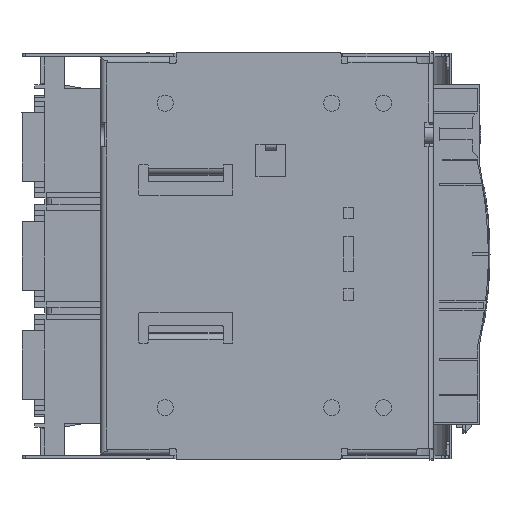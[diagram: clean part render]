
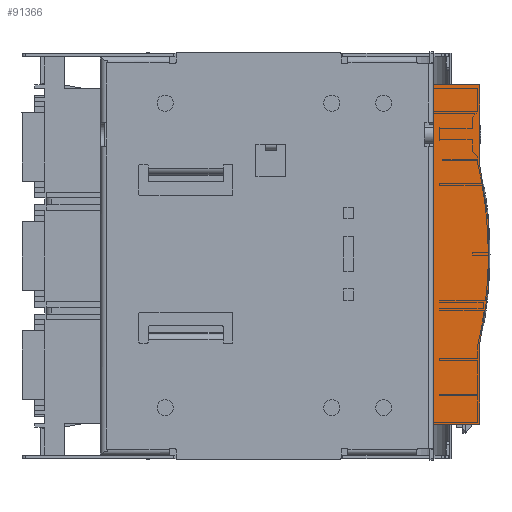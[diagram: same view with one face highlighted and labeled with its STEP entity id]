
A CAD part, front view. The second image highlights one B-rep face of the part: STEP entity #91366.
In plain terms, the highlighted planar face has unit normal (0, -1, 0).
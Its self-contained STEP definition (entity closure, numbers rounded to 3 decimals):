
#5379 = ORIENTED_EDGE ( 'NONE', *, *, #108011, .F. ) ;
#6814 = ORIENTED_EDGE ( 'NONE', *, *, #9411, .F. ) ;
#9411 = EDGE_CURVE ( 'NONE', #169410, #97390, #197263, .T. ) ;
#16148 = VECTOR ( 'NONE', #48841, 1000. ) ;
#19619 = ORIENTED_EDGE ( 'NONE', *, *, #206454, .F. ) ;
#20533 = VERTEX_POINT ( 'NONE', #125835 ) ;
#27535 = EDGE_CURVE ( 'NONE', #55661, #190176, #224031, .T. ) ;
#31430 = CARTESIAN_POINT ( 'NONE',  ( 254.706, 188.813, 2.188 ) ) ;
#32949 = AXIS2_PLACEMENT_3D ( 'NONE', #31430, #70175, #105970 ) ;
#34794 = CARTESIAN_POINT ( 'NONE',  ( 590.656, 188.813, 149.688 ) ) ;
#47041 = VECTOR ( 'NONE', #76552, 1000. ) ;
#48841 = DIRECTION ( 'NONE',  ( 0., 0., 1. ) ) ;
#50523 = CARTESIAN_POINT ( 'NONE',  ( 590.656, 188.813, -145.312 ) ) ;
#50904 = EDGE_LOOP ( 'NONE', ( #5379, #111338, #93314, #6814, #88778, #19619 ) ) ;
#55661 = VERTEX_POINT ( 'NONE', #187999 ) ;
#57156 = CARTESIAN_POINT ( 'NONE',  ( 590.656, 188.813, 149.688 ) ) ;
#66743 = LINE ( 'NONE', #180045, #104513 ) ;
#68475 = EDGE_CURVE ( 'NONE', #172158, #169410, #66743, .T. ) ;
#70175 = DIRECTION ( 'NONE',  ( 0., 1., 0. ) ) ;
#76552 = DIRECTION ( 'NONE',  ( 1., 0., 0. ) ) ;
#88778 = ORIENTED_EDGE ( 'NONE', *, *, #68475, .F. ) ;
#91366 = ADVANCED_FACE ( 'NONE', ( #165398 ), #107142, .F. ) ;
#91781 = VECTOR ( 'NONE', #208940, 1000. ) ;
#93314 = ORIENTED_EDGE ( 'NONE', *, *, #191026, .F. ) ;
#97390 = VERTEX_POINT ( 'NONE', #236897 ) ;
#97882 = CARTESIAN_POINT ( 'NONE',  ( 590.656, 188.813, 149.688 ) ) ;
#104513 = VECTOR ( 'NONE', #125044, 1000. ) ;
#105970 = DIRECTION ( 'NONE',  ( 1., 0., 0. ) ) ;
#107142 = PLANE ( 'NONE',  #228391 ) ;
#107307 = VECTOR ( 'NONE', #225536, 1000. ) ;
#108011 = EDGE_CURVE ( 'NONE', #190176, #20533, #193459, .T. ) ;
#111338 = ORIENTED_EDGE ( 'NONE', *, *, #27535, .F. ) ;
#125044 = DIRECTION ( 'NONE',  ( 0., 0., -1. ) ) ;
#125835 = CARTESIAN_POINT ( 'NONE',  ( 590.656, 188.813, 80.688 ) ) ;
#126548 = DIRECTION ( 'NONE',  ( 0., 1., 0. ) ) ;
#145209 = DIRECTION ( 'NONE',  ( 0., 0., -1. ) ) ;
#157519 = CARTESIAN_POINT ( 'NONE',  ( 550.656, 188.813, 149.688 ) ) ;
#161386 = CARTESIAN_POINT ( 'NONE',  ( 254.706, 188.813, 2.188 ) ) ;
#164069 = LINE ( 'NONE', #157519, #16148 ) ;
#165398 = FACE_OUTER_BOUND ( 'NONE', #50904, .T. ) ;
#168000 = CARTESIAN_POINT ( 'NONE',  ( 550.656, 188.813, -145.312 ) ) ;
#169410 = VERTEX_POINT ( 'NONE', #50523 ) ;
#172158 = VERTEX_POINT ( 'NONE', #237766 ) ;
#180045 = CARTESIAN_POINT ( 'NONE',  ( 590.656, 188.813, -145.312 ) ) ;
#187999 = CARTESIAN_POINT ( 'NONE',  ( 550.656, 188.813, 149.688 ) ) ;
#190176 = VERTEX_POINT ( 'NONE', #34794 ) ;
#191026 = EDGE_CURVE ( 'NONE', #97390, #55661, #164069, .T. ) ;
#193459 = LINE ( 'NONE', #97882, #91781 ) ;
#197263 = LINE ( 'NONE', #168000, #107307 ) ;
#203881 = CIRCLE ( 'NONE', #32949, 345. ) ;
#206454 = EDGE_CURVE ( 'NONE', #20533, #172158, #203881, .T. ) ;
#208940 = DIRECTION ( 'NONE',  ( 0., 0., -1. ) ) ;
#224031 = LINE ( 'NONE', #57156, #47041 ) ;
#225536 = DIRECTION ( 'NONE',  ( -1., 0., 0. ) ) ;
#228391 = AXIS2_PLACEMENT_3D ( 'NONE', #161386, #126548, #145209 ) ;
#236897 = CARTESIAN_POINT ( 'NONE',  ( 550.656, 188.813, -145.312 ) ) ;
#237766 = CARTESIAN_POINT ( 'NONE',  ( 590.656, 188.813, -76.312 ) ) ;
